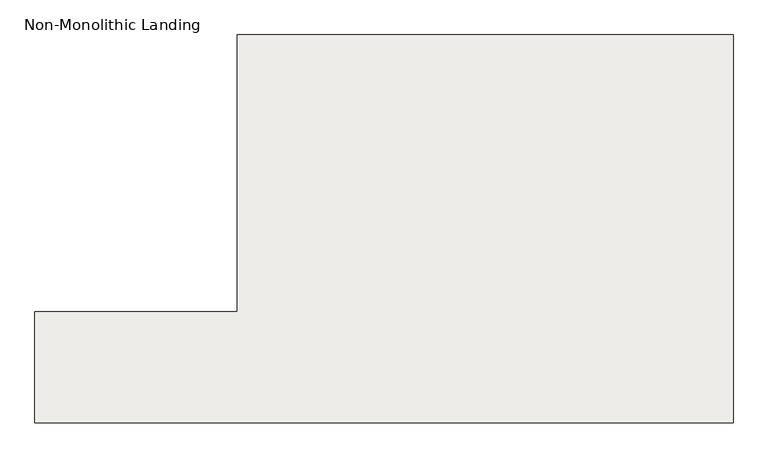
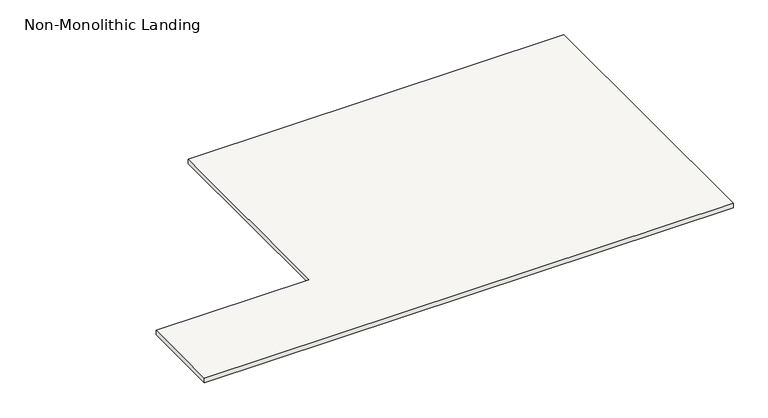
"""IFC4 building model written with IfcOpenShell, lengths in millimetres: slab geometry, Non-Monolithic Landing."""

from ifc_helpers import new_model, si_unit, frame, origin, place, context, project, spatial, polyline, outline, extrude, source, transform, mapped, element, save


def non_monolithic_landing_048cb5bc(model_context):
    return source(origin(), model_context, "Body", "SweptSolid", [
        extrude(outline(polyline([(8140.8221922, 13883.1406645), (9810.8721922, 13883.1406645), (9810.8721922, 16169.1406645), (13901.8596922, 16169.1406645), (13901.8596922, 12968.7406645), (8140.8221922, 12968.7406645), (8140.8221922, 13883.1406645)])), frame((0.0, 0.0, 2997.2), z_axis=(0.0, 0.0, 1.0), x_axis=(1.0, 0.0, 0.0)), (0.0, 0.0, 1.0), 50.8),
    ])


if __name__ == "__main__":
    model = new_model("IFC4")
    model_context = context("Model", 3, world=origin())
    ifc_project = project(units=[si_unit("LENGTHUNIT", "METRE", prefix="MILLI")], contexts=[model_context])
    site = spatial("IfcSite", under=ifc_project)
    building = spatial("IfcBuilding", under=site)
    placement = place(None, origin())
    non_monolithic_landing_shape = non_monolithic_landing_048cb5bc(model_context)
    element("IfcSlab", 1, ObjectType="Non-Monolithic Landing", at=placement, inside=building, context=model_context, shape_type="MappedRepresentation", body=[
        mapped(non_monolithic_landing_shape, transform((0.0, 0.0, 0.0), x_axis=(1.0, 0.0, 0.0), y_axis=(0.0, 1.0, 0.0), z_axis=(0.0, 0.0, 1.0))),
    ])
    save(model, "model.ifc")
